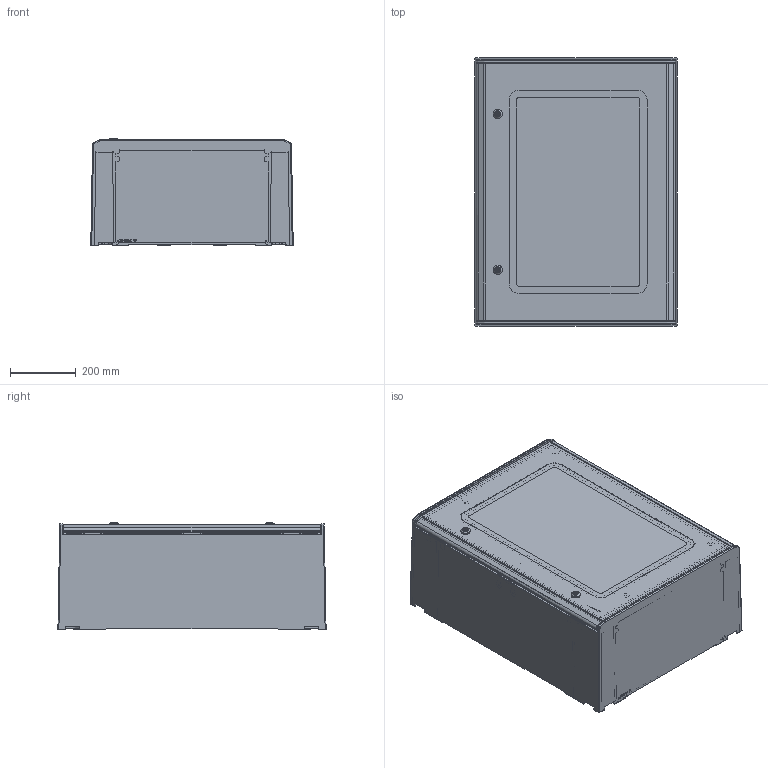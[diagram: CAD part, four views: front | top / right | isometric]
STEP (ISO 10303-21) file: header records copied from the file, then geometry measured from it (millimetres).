
FILE_DESCRIPTION (( 'STEP AP203' ), '1' );
FILE_NAME ('HYDRA T 685.STEP', '2018-08-30T11:15:42', ( '' ), ( '' ), 'SwSTEP 2.0', 'SolidWorks 2014', '' );
FILE_SCHEMA (( 'CONFIG_CONTROL_DESIGN' ));
Length unit declared in the file: millimetre
Products named in the file (12): M 22 D5 BJ 9005 Nakretka_Domy˜lna; M 22 D5 BJ 9005 .SLDPRT_Domy˜lna; 124 6080 01_Domy˜lna; M5469_Domy˜lna; 942 0002_Domy˜lna; 942 0003_Domy˜lna; 942 0004_Domy˜lna; HYDRA T 685; 124 6080 05_685; 942 0012_Domy˜lna; M 22 D5 BJ 9005 Korpus_Domy˜lna; M 22 D5 BJ 9005 Wkladka_Domy˜lna
Assembly tree (18 placements, depth 3):
  HYDRA T 685
    124 6080 01_Domy˜lna
    942 0002_Domy˜lna  x3
    942 0004_Domy˜lna  x3
    124 6080 05_685
    942 0012_Domy˜lna
    M 22 D5 BJ 9005 .SLDPRT_Domy˜lna  x2
      M 22 D5 BJ 9005 Korpus_Domy˜lna
      M 22 D5 BJ 9005 Wkladka_Domy˜lna
      M 22 D5 BJ 9005 Nakretka_Domy˜lna
    M5469_Domy˜lna  x2
    942 0003_Domy˜lna  x2
Bounding box: 616.16 x 816.16 x 328 mm (x, y, z)
Volume: 7130741.6 mm3; surface area: 4499166.2 mm2
Topology: 23 solids, 23 shells, 7165 faces, 17721 edges, 10707 vertices
Faces by surface type: cylinder 2419, plane 2158, bspline 1837, torus 334, cone 227, sphere 190
Entity records: 194205 total; most frequent: CARTESIAN_POINT 83400, ORIENTED_EDGE 24964, DIRECTION 20544, EDGE_CURVE 12482, VERTEX_POINT 7572, AXIS2_PLACEMENT_3D 7438, VECTOR 5668, LINE 5668
